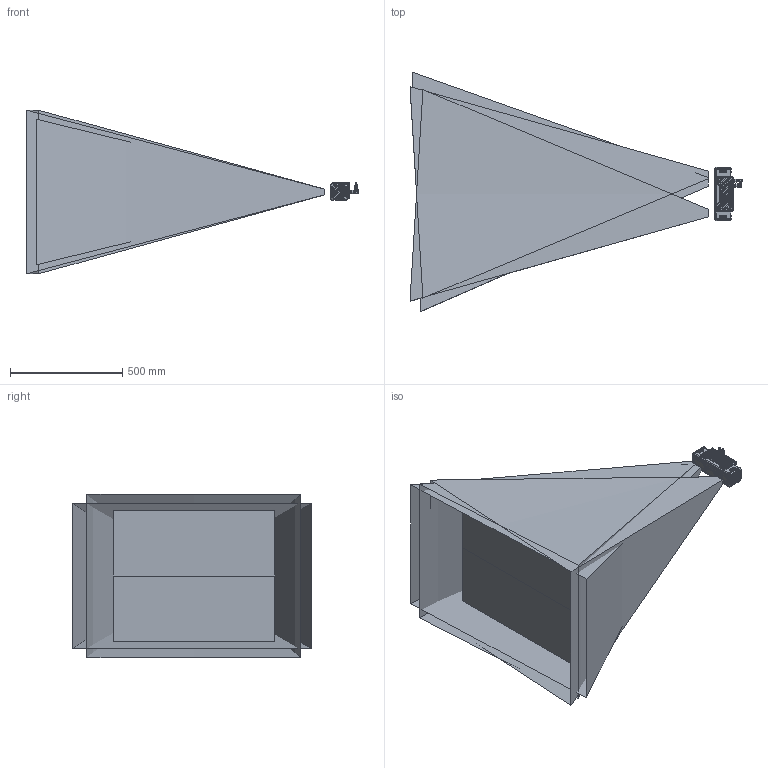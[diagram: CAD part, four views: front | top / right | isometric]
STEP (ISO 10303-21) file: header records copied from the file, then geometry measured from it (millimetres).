
FILE_DESCRIPTION((''),'2;1');
FILE_NAME('MV-DLS400P-08-_ASM','2025-11-17T19:41:35',('guotianbo'),(''),'CREO PARAMETRIC BY PTC INC, 2020044','CREO PARAMETRIC BY PTC INC, 2020044','');
FILE_SCHEMA(('AUTOMOTIVE_DESIGN { 1 0 10303 214 1 1 1 1 }'));
Products named in the file (1): MV-DLS400P-08-_ASM
Bounding box: 1478.29 x 1065.63 x 728.52 mm (x, y, z)
Surface area: 8785412.4 mm2 (no closed solid volume)
Topology: 0 solids, 88 shells, 2298 faces, 7313 edges, 4988 vertices
Faces by surface type: plane 1209, cylinder 780, cone 134, bspline 86, torus 61, extrusion 28
Entity records: 130046 total; most frequent: CARTESIAN_POINT 61906, ORIENTED_EDGE 12892, DIRECTION 12547, EDGE_CURVE 7289, VERTEX_POINT 4988, AXIS2_PLACEMENT_3D 4213, VECTOR 4121, LINE 4093
